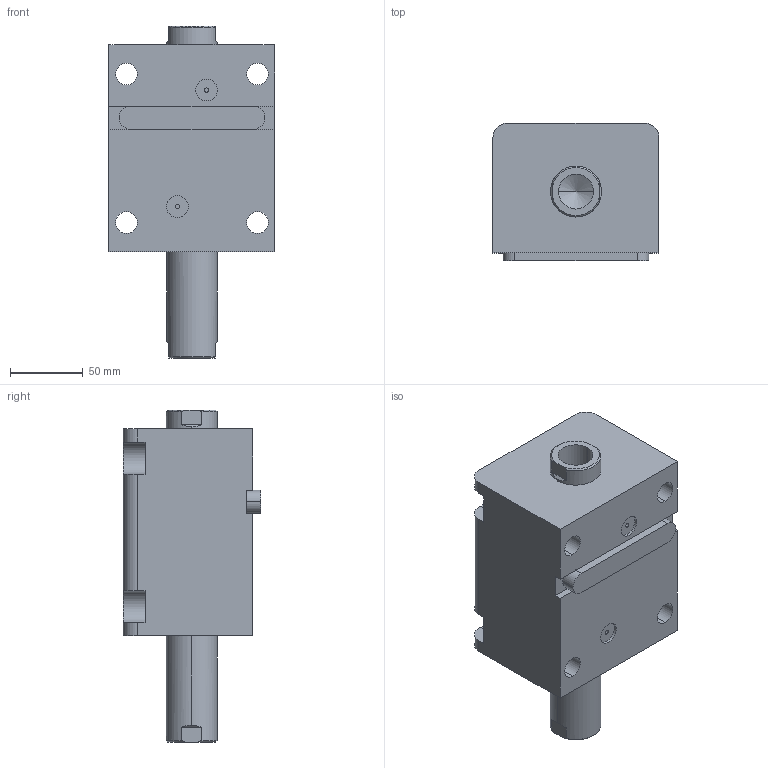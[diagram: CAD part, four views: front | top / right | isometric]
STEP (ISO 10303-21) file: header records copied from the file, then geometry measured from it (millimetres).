
FILE_DESCRIPTION (( 'STEP AP203' ), '1' );
FILE_NAME ('HTB-LWM63-60N.STEP', '2020-12-25T03:49:18', ( '微软用户' ), ( '微软中国' ), 'SwSTEP 2.0', 'SolidWorks 2012', '' );
FILE_SCHEMA (( 'CONFIG_CONTROL_DESIGN' ));
Length unit declared in the file: millimetre
Products named in the file (4): HTB-LWM63-60N; HTB-LWM63-60掛极; HTB-LWM63-60N活塞杆; HTB-LWM63-瑩
Assembly tree (3 placements, depth 2):
  HTB-LWM63-60N
    HTB-LWM63-60掛极
    HTB-LWM63-60N活塞杆
    HTB-LWM63-瑩
Bounding box: 114 x 94.5 x 228 mm (x, y, z)
Volume: 1280511 mm3; surface area: 161488.8 mm2
Topology: 3 solids, 3 shells, 105 faces, 261 edges, 168 vertices
Faces by surface type: cylinder 45, plane 44, torus 8, cone 8
Entity records: 3571 total; most frequent: CARTESIAN_POINT 592, DIRECTION 573, ORIENTED_EDGE 514, EDGE_CURVE 257, AXIS2_PLACEMENT_3D 221, VERTEX_POINT 168, LINE 131, VECTOR 131
